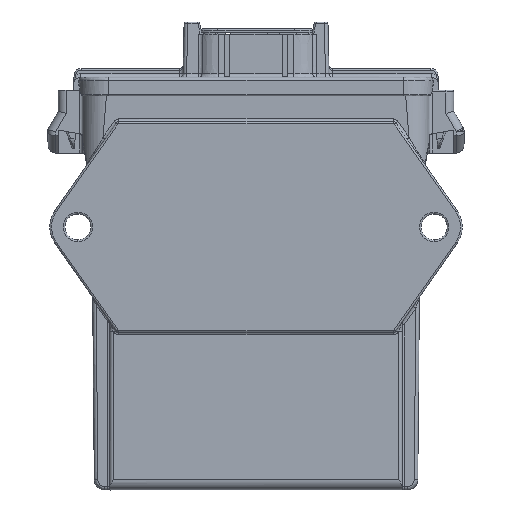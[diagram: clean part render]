
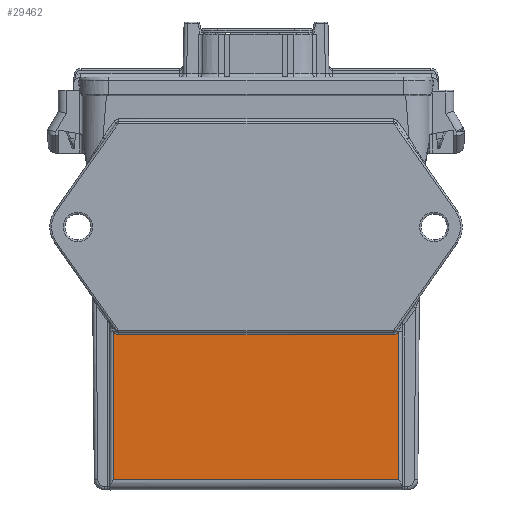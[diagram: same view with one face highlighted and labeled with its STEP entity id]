
A CAD part, front view. The second image highlights one B-rep face of the part: STEP entity #29462.
In plain terms, the highlighted planar face has unit normal (0, -1, -0.009).
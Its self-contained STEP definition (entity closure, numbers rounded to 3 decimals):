
#275 = VERTEX_POINT ( 'NONE', #29560 ) ;
#385 = ORIENTED_EDGE ( 'NONE', *, *, #26277, .T. ) ;
#1576 = CARTESIAN_POINT ( 'NONE',  ( -39.654, -15.648, -69.716 ) ) ;
#1955 = ORIENTED_EDGE ( 'NONE', *, *, #17759, .F. ) ;
#3700 = B_SPLINE_CURVE_WITH_KNOTS ( 'NONE', 3,
 ( #63533, #57662, #69405, #34520 ),
 .UNSPECIFIED., .F., .F.,
 ( 4, 4 ),
 ( 0., 1. ),
 .UNSPECIFIED. ) ;
#4639 = ORIENTED_EDGE ( 'NONE', *, *, #23313, .T. ) ;
#5509 = CARTESIAN_POINT ( 'NONE',  ( 40.721, -15.288, -111.021 ) ) ;
#6675 = CARTESIAN_POINT ( 'NONE',  ( -39.408, -15.648, -69.776 ) ) ;
#7423 = CARTESIAN_POINT ( 'NONE',  ( -40.31, -15.652, -69.307 ) ) ;
#8089 = VECTOR ( 'NONE', #51850, 1000. ) ;
#8269 = CARTESIAN_POINT ( 'NONE',  ( 40.459, -15.654, -69.094 ) ) ;
#9557 = FACE_OUTER_BOUND ( 'NONE', #11989, .T. ) ;
#10564 = CARTESIAN_POINT ( 'NONE',  ( 39.149, -15.648, -69.776 ) ) ;
#11710 = EDGE_CURVE ( 'NONE', #50570, #13905, #26633, .T. ) ;
#11941 = DIRECTION ( 'NONE',  ( -1., 0., 0. ) ) ;
#11989 = EDGE_LOOP ( 'NONE', ( #50219, #1955, #4639, #385, #17940, #15268, #43910, #41613 ) ) ;
#13215 = EDGE_CURVE ( 'NONE', #275, #73673, #24755, .T. ) ;
#13905 = VERTEX_POINT ( 'NONE', #22833 ) ;
#14957 = EDGE_CURVE ( 'NONE', #73673, #13905, #3700, .T. ) ;
#15268 = ORIENTED_EDGE ( 'NONE', *, *, #47907, .T. ) ;
#17759 = EDGE_CURVE ( 'NONE', #26118, #50570, #40541, .T. ) ;
#17809 = CARTESIAN_POINT ( 'NONE',  ( -52.584, -15.648, -69.776 ) ) ;
#17940 = ORIENTED_EDGE ( 'NONE', *, *, #19127, .T. ) ;
#19127 = EDGE_CURVE ( 'NONE', #26953, #54914, #38629, .T. ) ;
#19936 = LINE ( 'NONE', #72705, #35437 ) ;
#21470 = VECTOR ( 'NONE', #11941, 1000. ) ;
#21983 = CARTESIAN_POINT ( 'NONE',  ( 40.721, -15.657, -68.72 ) ) ;
#22833 = CARTESIAN_POINT ( 'NONE',  ( -40.72, -15.657, -68.721 ) ) ;
#23313 = EDGE_CURVE ( 'NONE', #26118, #39611, #23605, .T. ) ;
#23605 = LINE ( 'NONE', #5509, #8089 ) ;
#23793 = CARTESIAN_POINT ( 'NONE',  ( 40.72, -15.288, -111.021 ) ) ;
#24169 = CARTESIAN_POINT ( 'NONE',  ( 13.573, -15.288, -111.021 ) ) ;
#24755 = B_SPLINE_CURVE_WITH_KNOTS ( 'NONE', 3,
 ( #65522, #6675, #1576, #42394, #7423, #48194 ),
 .UNSPECIFIED., .F., .F.,
 ( 4, 2, 4 ),
 ( 0., 0.5, 1. ),
 .UNSPECIFIED. ) ;
#25563 = CARTESIAN_POINT ( 'NONE',  ( -52.584, -16.256, 0. ) ) ;
#26118 = VERTEX_POINT ( 'NONE', #23793 ) ;
#26277 = EDGE_CURVE ( 'NONE', #39611, #26953, #19936, .T. ) ;
#26633 = B_SPLINE_CURVE_WITH_KNOTS ( 'NONE', 3,
 ( #69434, #63564, #39407, #75348 ),
 .UNSPECIFIED., .F., .F.,
 ( 4, 4 ),
 ( 0., 1. ),
 .UNSPECIFIED. ) ;
#26953 = VERTEX_POINT ( 'NONE', #8269 ) ;
#28763 = CARTESIAN_POINT ( 'NONE',  ( 40.31, -15.652, -69.307 ) ) ;
#29462 = ADVANCED_FACE ( 'NONE', ( #9557 ), #66802, .T. ) ;
#29560 = CARTESIAN_POINT ( 'NONE',  ( -39.149, -15.648, -69.776 ) ) ;
#31891 = DIRECTION ( 'NONE',  ( -0.574, 0.007, -0.819 ) ) ;
#31909 = DIRECTION ( 'NONE',  ( 0., -1., -0.009 ) ) ;
#34520 = CARTESIAN_POINT ( 'NONE',  ( -40.72, -15.657, -68.721 ) ) ;
#34607 = CARTESIAN_POINT ( 'NONE',  ( 39.655, -15.648, -69.716 ) ) ;
#35437 = VECTOR ( 'NONE', #31891, 1000. ) ;
#35883 = CARTESIAN_POINT ( 'NONE',  ( -40.72, -15.288, -111.021 ) ) ;
#38629 = B_SPLINE_CURVE_WITH_KNOTS ( 'NONE', 3,
 ( #69486, #28763, #62605, #34607, #75401, #40477 ),
 .UNSPECIFIED., .F., .F.,
 ( 4, 2, 4 ),
 ( 0., 0.5, 1. ),
 .UNSPECIFIED. ) ;
#39407 = CARTESIAN_POINT ( 'NONE',  ( -40.721, -15.534, -82.821 ) ) ;
#39611 = VERTEX_POINT ( 'NONE', #21983 ) ;
#40477 = CARTESIAN_POINT ( 'NONE',  ( 39.149, -15.648, -69.776 ) ) ;
#40541 = B_SPLINE_CURVE_WITH_KNOTS ( 'NONE', 3,
 ( #59043, #24169, #70804, #35883 ),
 .UNSPECIFIED., .F., .F.,
 ( 4, 4 ),
 ( 0., 1. ),
 .UNSPECIFIED. ) ;
#41613 = ORIENTED_EDGE ( 'NONE', *, *, #14957, .T. ) ;
#42394 = CARTESIAN_POINT ( 'NONE',  ( -40.119, -15.65, -69.474 ) ) ;
#43910 = ORIENTED_EDGE ( 'NONE', *, *, #13215, .T. ) ;
#47907 = EDGE_CURVE ( 'NONE', #54914, #275, #50614, .T. ) ;
#48194 = CARTESIAN_POINT ( 'NONE',  ( -40.459, -15.654, -69.094 ) ) ;
#50219 = ORIENTED_EDGE ( 'NONE', *, *, #11710, .F. ) ;
#50570 = VERTEX_POINT ( 'NONE', #67371 ) ;
#50614 = LINE ( 'NONE', #17809, #21470 ) ;
#51850 = DIRECTION ( 'NONE',  ( 0., -0.009, 1. ) ) ;
#53567 = AXIS2_PLACEMENT_3D ( 'NONE', #25563, #31909, #72718 ) ;
#54184 = CARTESIAN_POINT ( 'NONE',  ( -40.459, -15.654, -69.094 ) ) ;
#54914 = VERTEX_POINT ( 'NONE', #10564 ) ;
#57662 = CARTESIAN_POINT ( 'NONE',  ( -40.546, -15.655, -68.969 ) ) ;
#59043 = CARTESIAN_POINT ( 'NONE',  ( 40.72, -15.288, -111.021 ) ) ;
#62605 = CARTESIAN_POINT ( 'NONE',  ( 40.12, -15.65, -69.473 ) ) ;
#63533 = CARTESIAN_POINT ( 'NONE',  ( -40.459, -15.654, -69.094 ) ) ;
#63564 = CARTESIAN_POINT ( 'NONE',  ( -40.721, -15.411, -96.921 ) ) ;
#65522 = CARTESIAN_POINT ( 'NONE',  ( -39.149, -15.648, -69.776 ) ) ;
#66802 = PLANE ( 'NONE',  #53567 ) ;
#67371 = CARTESIAN_POINT ( 'NONE',  ( -40.72, -15.288, -111.021 ) ) ;
#69405 = CARTESIAN_POINT ( 'NONE',  ( -40.633, -15.656, -68.845 ) ) ;
#69434 = CARTESIAN_POINT ( 'NONE',  ( -40.72, -15.288, -111.021 ) ) ;
#69486 = CARTESIAN_POINT ( 'NONE',  ( 40.459, -15.654, -69.094 ) ) ;
#70804 = CARTESIAN_POINT ( 'NONE',  ( -13.573, -15.288, -111.021 ) ) ;
#72705 = CARTESIAN_POINT ( 'NONE',  ( 40.721, -15.657, -68.72 ) ) ;
#72718 = DIRECTION ( 'NONE',  ( 0., 0.009, -1. ) ) ;
#73673 = VERTEX_POINT ( 'NONE', #54184 ) ;
#75348 = CARTESIAN_POINT ( 'NONE',  ( -40.72, -15.657, -68.721 ) ) ;
#75401 = CARTESIAN_POINT ( 'NONE',  ( 39.409, -15.648, -69.776 ) ) ;
